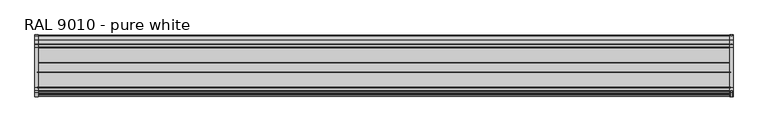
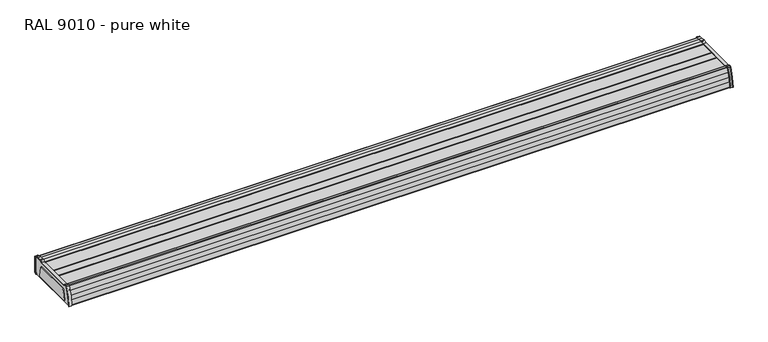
"""IFC4 building model written with IfcOpenShell, lengths in millimetres: proxy geometry, Electrical_Installations_Hager_GBD-Curved-Lid-End-Cap : RAL 9010 - pure white."""

from ifc_helpers import new_model, si_unit, point, frame, frame_2d, origin, place, context, project, spatial, polyline, circle_curve, trimmed, segment, composite_curve, outline, extrude, source, transform, mapped, element, save
from ifc_brep_helpers import plane_surface, cylinder_surface, revolved_surface, advanced_brep


def ral_9010_pure_white_70e795a8(model_context):
    return source(origin(), model_context, "Body", "SolidModel", [
        extrude(outline(composite_curve([segment(polyline([(-56.2971023, 12.5), (56.2971023, 12.5)]), True, "CONTINUOUS"), segment(trimmed(circle_curve(frame_2d((56.2971023, 11.6099434)), 0.8900566), [point((56.2971023, 12.5))], [point((57.1568309, 11.840307))], False, "CARTESIAN"), True, "CONTINUOUS"), segment(polyline([(57.1568309, 11.840307), (61.5409562, -4.5214711), (64.3769076, -20.8259828)]), True, "CONTINUOUS"), segment(trimmed(circle_curve(frame_2d((63.389468, -20.9977347)), 1.0022653), [point((64.3769076, -20.8259828))], [point((63.389468, -22.0))], False, "CARTESIAN"), True, "CONTINUOUS"), segment(polyline([(63.389468, -22.0), (-63.389468, -22.0)]), True, "CONTINUOUS"), segment(trimmed(circle_curve(frame_2d((-63.389468, -20.9977347)), 1.0022653), [point((-63.389468, -22.0))], [point((-64.3769076, -20.8259828))], False, "CARTESIAN"), True, "CONTINUOUS"), segment(polyline([(-64.3769076, -20.8259828), (-61.5409562, -4.5214711), (-57.1568309, 11.840307)]), True, "CONTINUOUS"), segment(trimmed(circle_curve(frame_2d((-56.2971023, 11.6099434)), 0.8900566), [point((-57.1568309, 11.840307))], [point((-56.2971023, 12.5))], False, "CARTESIAN"), True, "CONTINUOUS")], self_intersect=False)), frame((-6.484375, 0.0, 0.0), z_axis=(1.0, 0.0, 0.0), x_axis=(0.0, 1.0, 0.0)), (0.0, 0.0, 1.0), 2.5),
        extrude(outline(composite_curve([segment(polyline([(-56.2971023, 12.5), (56.2971023, 12.5)]), True, "CONTINUOUS"), segment(trimmed(circle_curve(frame_2d((56.2971023, 11.6099434)), 0.8900566), [point((56.2971023, 12.5))], [point((57.1568309, 11.840307))], False, "CARTESIAN"), True, "CONTINUOUS"), segment(polyline([(57.1568309, 11.840307), (61.5409562, -4.5214711), (64.3769076, -20.8259828)]), True, "CONTINUOUS"), segment(trimmed(circle_curve(frame_2d((63.389468, -20.9977347)), 1.0022653), [point((64.3769076, -20.8259828))], [point((63.389468, -22.0))], False, "CARTESIAN"), True, "CONTINUOUS"), segment(polyline([(63.389468, -22.0), (-63.389468, -22.0)]), True, "CONTINUOUS"), segment(trimmed(circle_curve(frame_2d((-63.389468, -20.9977347)), 1.0022653), [point((-63.389468, -22.0))], [point((-64.3769076, -20.8259828))], False, "CARTESIAN"), True, "CONTINUOUS"), segment(polyline([(-64.3769076, -20.8259828), (-61.5409562, -4.5214711), (-57.1568309, 11.840307)]), True, "CONTINUOUS"), segment(trimmed(circle_curve(frame_2d((-56.2971023, 11.6099434)), 0.8900566), [point((-57.1568309, 11.840307))], [point((-56.2971023, 12.5))], False, "CARTESIAN"), True, "CONTINUOUS")], self_intersect=False)), frame((2003.984375, 0.0, 0.0), z_axis=(1.0, 0.0, 0.0), x_axis=(0.0, 1.0, 0.0)), (0.0, 0.0, 1.0), 2.5),
        advanced_brep(
        [(2.5, 89.0716104, 25.3713094), (2.5, 86.0170743, 28.9997666), (2.5, 74.2844253, 30.6486828), (2.5, 62.4516475, 31.6839168), (2.5, 60.8066211, 31.4964897), (2.5, 52.1999109, 28.7), (2.5, -62.8126879, 28.7), (2.5, -71.4543472, 31.5078453), (2.5, -76.0707812, 29.3458662), (2.5, -89.4534138, -27.0), (2.5, -87.950009, -27.0), (2.5, -74.7139057, 28.7218397), (2.5, -71.8616711, 30.0629995), (2.5, -63.0502646, 27.2), (2.5, 52.4374875, 27.2), (2.5, 61.1100703, 30.017893), (2.5, 62.6440579, 30.1926688), (2.5, 74.1080217, 29.1897019), (2.5, 85.7835434, 27.4641372), (2.5, 87.5716104, 25.3259929), (2.5, 87.5716104, -21.9074834), (2.5, 82.4790938, -27.0), (2.5, 84.0716104, -27.0), (2.5, 89.0716104, -22.0), (-6.484375, 89.0716104, 25.3713094), (-6.484375, 89.0716104, -22.0), (-6.484375, 84.0716104, -27.0), (-6.484375, 82.4790938, -27.0), (-6.484375, 87.5716104, -21.9074834), (-6.484375, 87.5716104, 25.3259929), (-6.484375, 85.7835434, 27.4641372), (-6.484375, 74.1080217, 29.1897019), (-6.484375, 62.6440579, 30.1926688), (-6.484375, 61.1100703, 30.017893), (-6.484375, 52.4374875, 27.2), (-6.484375, -63.0502646, 27.2), (-6.484375, -71.8616711, 30.0629995), (-6.484375, -74.7139057, 28.7218397), (-6.484375, -87.950009, -27.0), (-6.484375, -89.4534138, -27.0), (-6.484375, -76.0707812, 29.3458662), (-6.484375, -71.4543472, 31.5078453), (-6.484375, -62.8126879, 28.7), (-6.484375, 52.1999109, 28.7), (-6.484375, 60.8066211, 31.4964897), (-6.484375, 62.4516475, 31.6839168), (-6.484375, 74.2844253, 30.6486828), (-6.484375, 86.0170743, 28.9997666), (0.0, 89.0716104, 25.3713094), (-3.984375, 89.0716104, 25.3713094), (-3.984375, 86.0170743, 28.9997666), (0.0, 86.0170743, 28.9997666), (0.0, 89.0716104, -22.0), (-3.984375, 89.0716104, -22.0), (0.0, 82.4790938, -27.0), (0.0, -87.950009, -27.0), (-3.984375, -87.950009, -27.0), (-3.984375, 82.4790938, -27.0), (0.0, 87.5716104, -21.9074834), (-3.984375, 87.5716104, -21.9074834), (0.0, 87.5716104, 25.3259929), (-3.984375, 87.5716104, 25.3259929), (0.0, 85.7835434, 27.4641372), (-3.984375, 85.7835434, 27.4641372), (0.0, -63.0502646, 27.2), (0.0, 52.4374875, 27.2), (-3.984375, 52.4374875, 27.2), (-3.984375, -63.0502646, 27.2), (0.0, -71.8616711, 30.0629995), (-3.984375, -71.8616711, 30.0629995), (0.0, -74.7139057, 28.7218397), (-3.984375, -74.7139057, 28.7218397), (0.0, -76.0707812, 29.3458662), (-3.984375, -76.0707812, 29.3458662), (0.0, -71.4543472, 31.5078453), (-3.984375, -71.4543472, 31.5078453), (0.0, -62.8126879, 28.7), (-3.984375, -62.8126879, 28.7), (0.0, 52.1999109, 28.7), (-3.984375, 52.1999109, 28.7), (0.0, 74.1080217, 29.1897019), (-3.984375, 74.1080217, 29.1897019), (0.0, 62.6440579, 30.1926688), (-3.984375, 62.6440579, 30.1926688), (0.0, 61.1100703, 30.017893), (-3.984375, 61.1100703, 30.017893), (0.0, 60.8066211, 31.4964897), (-3.984375, 60.8066211, 31.4964897), (0.0, 62.4516475, 31.6839168), (-3.984375, 62.4516475, 31.6839168), (0.0, 74.2844253, 30.6486828), (-3.984375, 74.2844253, 30.6486828)],
        [
            (0, 1, circle_curve(frame((2.5, 85.3892358, 25.3713094), z_axis=(1.0, 0.0, 0.0), x_axis=(0.0, -1.0, 0.0)), 3.6823746)),
            (1, 2),
            (2, 3),
            (3, 4, circle_curve(frame((2.5, 62.0897511, 27.5474216), z_axis=(1.0, 0.0, 0.0), x_axis=(0.0, -1.0, 0.0)), 4.1522959)),
            (4, 5),
            (5, 6),
            (6, 7),
            (7, 8, circle_curve(frame((2.5, -72.607181, 27.9597874), z_axis=(1.0, 0.0, 0.0), x_axis=(0.0, -1.0, 0.0)), 3.7306488)),
            (8, 9, circle_curve(frame((2.5, 106.8832578, -43.8694858), z_axis=(1.0, 0.0, 0.0), x_axis=(0.0, -1.0, 0.0)), 197.0600623)),
            (9, 10),
            (10, 11, circle_curve(frame((2.5, 110.3369957, -44.6679083), z_axis=(-1.0, 0.0, 0.0), x_axis=(0.0, -1.0, 0.0)), 199.0725777)),
            (11, 12, circle_curve(frame((2.5, -72.5732824, 27.8728851), z_axis=(-1.0, 0.0, 0.0), x_axis=(0.0, -1.0, 0.0)), 2.3028226)),
            (12, 13),
            (13, 14),
            (14, 15),
            (15, 16, circle_curve(frame((2.5, 62.3065893, 26.3353861), z_axis=(-1.0, 0.0, 0.0), x_axis=(0.0, -1.0, 0.0)), 3.8720169)),
            (16, 17),
            (17, 18),
            (18, 19, circle_curve(frame((2.5, 85.3991961, 25.3259929), z_axis=(-1.0, 0.0, 0.0), x_axis=(0.0, -1.0, 0.0)), 2.1724143)),
            (19, 20),
            (20, 21),
            (21, 22),
            (22, 23),
            (23, 0),
            (24, 25),
            (25, 26),
            (26, 27),
            (27, 28),
            (28, 29),
            (29, 30, circle_curve(frame((-6.484375, 85.3991961, 25.3259929), z_axis=(1.0, 0.0, 0.0), x_axis=(0.0, -1.0, 0.0)), 2.1724143)),
            (30, 31),
            (31, 32),
            (32, 33, circle_curve(frame((-6.484375, 62.3065893, 26.3353861), z_axis=(1.0, 0.0, 0.0), x_axis=(0.0, -1.0, 0.0)), 3.8720169)),
            (33, 34),
            (34, 35),
            (35, 36),
            (36, 37, circle_curve(frame((-6.484375, -72.5732824, 27.8728851), z_axis=(1.0, 0.0, 0.0), x_axis=(0.0, -1.0, 0.0)), 2.3028226)),
            (37, 38, circle_curve(frame((-6.484375, 110.3369957, -44.6679083), z_axis=(1.0, 0.0, 0.0), x_axis=(0.0, -1.0, 0.0)), 199.0725777)),
            (38, 39),
            (39, 40, circle_curve(frame((-6.484375, 106.8832578, -43.8694858), z_axis=(-1.0, 0.0, 0.0), x_axis=(0.0, -1.0, 0.0)), 197.0600623)),
            (40, 41, circle_curve(frame((-6.484375, -72.607181, 27.9597874), z_axis=(-1.0, 0.0, 0.0), x_axis=(0.0, -1.0, 0.0)), 3.7306488)),
            (41, 42),
            (42, 43),
            (43, 44),
            (44, 45, circle_curve(frame((-6.484375, 62.0897511, 27.5474216), z_axis=(-1.0, 0.0, 0.0), x_axis=(0.0, -1.0, 0.0)), 4.1522959)),
            (45, 46),
            (46, 47),
            (47, 24, circle_curve(frame((-6.484375, 85.3892358, 25.3713094), z_axis=(-1.0, 0.0, 0.0), x_axis=(0.0, -1.0, 0.0)), 3.6823746)),
            (0, 48),
            (48, 49),
            (49, 24),
            (47, 50),
            (50, 51),
            (51, 1),
            (23, 52),
            (52, 53),
            (53, 25),
            (22, 26),
            (21, 54),
            (54, 55),
            (55, 10),
            (9, 39),
            (38, 56),
            (56, 57),
            (57, 27),
            (20, 58),
            (58, 54),
            (57, 59),
            (59, 28),
            (19, 60),
            (60, 58),
            (59, 61),
            (61, 29),
            (18, 62),
            (62, 60, circle_curve(frame((0.0, 85.3991961, 25.3259929), z_axis=(-1.0, 0.0, 0.0), x_axis=(0.0, -1.0, 0.0)), 2.1724143)),
            (61, 63, circle_curve(frame((-3.984375, 85.3991961, 25.3259929), z_axis=(1.0, 0.0, 0.0), x_axis=(0.0, -1.0, 0.0)), 2.1724143)),
            (63, 30),
            (13, 64),
            (64, 65),
            (65, 14),
            (34, 66),
            (66, 67),
            (67, 35),
            (12, 68),
            (68, 64),
            (67, 69),
            (69, 36),
            (11, 70),
            (70, 68, circle_curve(frame((0.0, -72.5732824, 27.8728851), z_axis=(-1.0, 0.0, 0.0), x_axis=(0.0, -1.0, 0.0)), 2.3028226)),
            (69, 71, circle_curve(frame((-3.984375, -72.5732824, 27.8728851), z_axis=(1.0, 0.0, 0.0), x_axis=(0.0, -1.0, 0.0)), 2.3028226)),
            (71, 37),
            (55, 70, circle_curve(frame((0.0, 110.3369957, -44.6679083), z_axis=(-1.0, 0.0, 0.0), x_axis=(0.0, -1.0, 0.0)), 199.0725777)),
            (71, 56, circle_curve(frame((-3.984375, 110.3369957, -44.6679083), z_axis=(1.0, 0.0, 0.0), x_axis=(0.0, -1.0, 0.0)), 199.0725777)),
            (8, 72),
            (72, 73),
            (73, 40),
            (7, 74),
            (74, 75),
            (75, 41),
            (6, 76),
            (76, 77),
            (77, 42),
            (5, 78),
            (78, 79),
            (79, 43),
            (17, 80),
            (80, 62),
            (63, 81),
            (81, 31),
            (16, 82),
            (82, 80),
            (81, 83),
            (83, 32),
            (15, 84),
            (84, 82, circle_curve(frame((0.0, 62.3065893, 26.3353861), z_axis=(-1.0, 0.0, 0.0), x_axis=(0.0, -1.0, 0.0)), 3.8720169)),
            (83, 85, circle_curve(frame((-3.984375, 62.3065893, 26.3353861), z_axis=(1.0, 0.0, 0.0), x_axis=(0.0, -1.0, 0.0)), 3.8720169)),
            (85, 33),
            (65, 84),
            (85, 66),
            (4, 86),
            (86, 87),
            (87, 44),
            (3, 88),
            (88, 89),
            (89, 45),
            (2, 90),
            (90, 91),
            (91, 46),
        ],
        [
            plane_surface(frame((2.5, 0.0, 0.0), z_axis=(1.0, 0.0, 0.0), x_axis=(0.0, 0.0, 1.0))),
            plane_surface(frame((-6.484375, 0.0, 0.0), z_axis=(-1.0, 0.0, 0.0), x_axis=(0.0, 0.0, 1.0))),
            cylinder_surface(frame((2.5, 85.3892358, 25.3713094), z_axis=(1.0, 0.0, 0.0), x_axis=(0.0, -1.0, 0.0)), 3.6823746),
            plane_surface(frame((2.5, 89.0716104, -22.0), z_axis=(0.0, 1.0, 0.0), x_axis=(-1.0, 0.0, 0.0))),
            plane_surface(frame((2.5, 84.0716104, -27.0), z_axis=(0.0, 0.7071067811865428, -0.7071067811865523), x_axis=(-1.0, 0.0, 0.0))),
            plane_surface(frame((2.5, 82.4790938, -27.0), z_axis=(0.0, 0.0, -1.0), x_axis=(-1.0, 0.0, 0.0))),
            plane_surface(frame((2.5, 87.5716104, -21.9074834), z_axis=(0.0, -0.7071067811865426, 0.7071067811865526), x_axis=(-1.0, 0.0, 0.0))),
            plane_surface(frame((2.5, 87.5716104, 25.3259929), z_axis=(0.0, -1.0, 0.0), x_axis=(-1.0, 0.0, 0.0))),
            revolved_surface(polyline([(0.0, 83.2267818, 25.3259929), (2.5, 83.2267818, 25.3259929)]), (2.5, 85.3991961, 25.3259929), (-1.0, 0.0, 0.0)),
            revolved_surface(polyline([(-6.484375, 83.2267818, 25.3259929), (-3.984375, 83.2267818, 25.3259929)]), (2.5, 85.3991961, 25.3259929), (-1.0, 0.0, 0.0)),
            plane_surface(frame((2.5, -63.0502646, 27.2), z_axis=(0.0, 0.0, -1.0), x_axis=(-1.0, 0.0, 0.0))),
            plane_surface(frame((2.5, -71.8616711, 30.0629995), z_axis=(0.0, -0.3090169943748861, -0.9510565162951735), x_axis=(-1.0, 0.0, 0.0))),
            revolved_surface(polyline([(0.0, -74.876105, 27.8728851), (2.5, -74.876105, 27.8728851)]), (2.5, -72.5732824, 27.8728851), (-1.0, 0.0, 0.0)),
            revolved_surface(polyline([(-6.484375, -74.876105, 27.8728851), (-3.984375, -74.876105, 27.8728851)]), (2.5, -72.5732824, 27.8728851), (-1.0, 0.0, 0.0)),
            revolved_surface(polyline([(0.0, -88.73558200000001, -44.6679083), (2.5, -88.73558200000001, -44.6679083)]), (2.5, 110.3369957, -44.6679083), (-1.0, 0.0, 0.0)),
            revolved_surface(polyline([(-6.484375, -88.73558200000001, -44.6679083), (-3.984375, -88.73558200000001, -44.6679083)]), (2.5, 110.3369957, -44.6679083), (-1.0, 0.0, 0.0)),
            cylinder_surface(frame((2.5, 106.8832578, -43.8694858), z_axis=(1.0, 0.0, 0.0), x_axis=(0.0, -1.0, 0.0)), 197.0600623),
            cylinder_surface(frame((2.5, -72.607181, 27.9597874), z_axis=(1.0, 0.0, 0.0), x_axis=(0.0, -1.0, 0.0)), 3.7306488),
            plane_surface(frame((2.5, -62.8126879, 28.7), z_axis=(0.0, 0.309016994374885, 0.951056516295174), x_axis=(-1.0, 0.0, 0.0))),
            plane_surface(frame((2.5, 52.1999109, 28.7), z_axis=(0.0, 0.0, 1.0), x_axis=(-1.0, 0.0, 0.0))),
            plane_surface(frame((2.5, 74.1080217, 29.1897019), z_axis=(0.0, -0.14620522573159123, -0.9892542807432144), x_axis=(-1.0, 0.0, 0.0))),
            plane_surface(frame((2.5, 62.6440579, 30.1926688), z_axis=(0.0, -0.08715574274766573, -0.9961946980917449), x_axis=(-1.0, 0.0, 0.0))),
            revolved_surface(polyline([(0.0, 58.4345724, 26.3353861), (2.5, 58.4345724, 26.3353861)]), (2.5, 62.3065893, 26.3353861), (-1.0, 0.0, 0.0)),
            revolved_surface(polyline([(-6.484375, 58.4345724, 26.3353861), (-3.984375, 58.4345724, 26.3353861)]), (2.5, 62.3065893, 26.3353861), (-1.0, 0.0, 0.0)),
            plane_surface(frame((2.5, 52.4374875, 27.2), z_axis=(0.0, 0.30901699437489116, -0.9510565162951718), x_axis=(-1.0, 0.0, 0.0))),
            plane_surface(frame((2.5, 60.8066211, 31.4964897), z_axis=(0.0, -0.3090169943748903, 0.9510565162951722), x_axis=(-1.0, 0.0, 0.0))),
            cylinder_surface(frame((2.5, 62.0897511, 27.5474216), z_axis=(1.0, 0.0, 0.0), x_axis=(0.0, -1.0, 0.0)), 4.1522959),
            plane_surface(frame((2.5, 74.2844253, 30.6486828), z_axis=(0.0, 0.08715574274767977, 0.9961946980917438), x_axis=(-1.0, 0.0, 0.0))),
            plane_surface(frame((2.5, 86.0170743, 28.9997666), z_axis=(0.0, 0.13917310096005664, 0.9902680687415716), x_axis=(-1.0, 0.0, 0.0))),
            plane_surface(frame((0.0, 0.0, 0.0), z_axis=(1.0, 0.0, 0.0), x_axis=(0.0, 0.0, 1.0))),
            plane_surface(frame((-3.984375, 0.0, 0.0), z_axis=(-1.0, 0.0, 0.0), x_axis=(0.0, 0.0, 1.0))),
        ],
        [
            (0, [[1, 2, 3, 4, 5, 6, 7, 8, 9, 10, 11, 12, 13, 14, 15, 16, 17, 18, 19, 20, 21, 22, 23, 24]]),
            (1, [[25, 26, 27, 28, 29, 30, 31, 32, 33, 34, 35, 36, 37, 38, 39, 40, 41, 42, 43, 44, 45, 46, 47, 48]]),
            (2, [[-1, 49, 50, 51, -48, 52, 53, 54]]),
            (3, [[-24, 55, 56, 57, -25, -51, -50, -49]]),
            (4, [[-23, 58, -26, -57, -56, -55]]),
            (5, [[-22, 59, 60, 61, -10, 62, -39, 63, 64, 65, -27, -58]]),
            (6, [[-21, 66, 67, -59]]),
            (6, [[-28, -65, 68, 69]]),
            (7, [[-20, 70, 71, -66]]),
            (7, [[-29, -69, 72, 73]]),
            (8, [[-19, 74, 75, -70]]),
            (9, [[-30, -73, 76, 77]]),
            (10, [[-14, 78, 79, 80]]),
            (10, [[-35, 81, 82, 83]]),
            (11, [[-13, 84, 85, -78]]),
            (11, [[-36, -83, 86, 87]]),
            (12, [[-12, 88, 89, -84]]),
            (13, [[-37, -87, 90, 91]]),
            (14, [[-11, -61, 92, -88]]),
            (15, [[-38, -91, 93, -63]]),
            (16, [[-62, -9, 94, 95, 96, -40]]),
            (17, [[-8, 97, 98, 99, -41, -96, -95, -94]]),
            (18, [[-7, 100, 101, 102, -42, -99, -98, -97]]),
            (19, [[-6, 103, 104, 105, -43, -102, -101, -100]]),
            (20, [[-18, 106, 107, -74]]),
            (20, [[-31, -77, 108, 109]]),
            (21, [[-17, 110, 111, -106]]),
            (21, [[-32, -109, 112, 113]]),
            (22, [[-16, 114, 115, -110]]),
            (23, [[-33, -113, 116, 117]]),
            (24, [[-15, -80, 118, -114]]),
            (24, [[-34, -117, 119, -81]]),
            (25, [[-5, 120, 121, 122, -44, -105, -104, -103]]),
            (26, [[-4, 123, 124, 125, -45, -122, -121, -120]]),
            (27, [[-3, 126, 127, 128, -46, -125, -124, -123]]),
            (28, [[-2, -54, -53, -52, -47, -128, -127, -126]]),
            (29, [[-60, -67, -71, -75, -107, -111, -115, -118, -79, -85, -89, -92]]),
            (30, [[-64, -93, -90, -86, -82, -119, -116, -112, -108, -76, -72, -68]]),
        ],
    ),
        advanced_brep(
        [(2000.0, 82.4790938, -27.0), (2000.0, -87.950009, -27.0), (2000.0, -74.7139057, 28.7218397), (2000.0, -71.8616711, 30.0629995), (2000.0, -63.0502646, 27.2), (2000.0, 52.4374875, 27.2), (2000.0, 61.1100703, 30.017893), (2000.0, 62.6440579, 30.1926688), (2000.0, 74.1080217, 29.1897019), (2000.0, 85.7835434, 27.4641372), (2000.0, 87.5716104, 25.3259929), (2000.0, 87.5716104, -21.9074834), (2003.984375, -87.950009, -27.0), (2003.984375, 82.4790938, -27.0), (2003.984375, 87.5716104, -21.9074834), (2003.984375, 87.5716104, 25.3259929), (2003.984375, 85.7835434, 27.4641372), (2003.984375, 74.1080217, 29.1897019), (2003.984375, 62.6440579, 30.1926688), (2003.984375, 61.1100703, 30.017893), (2003.984375, 52.4374875, 27.2), (2003.984375, -63.0502646, 27.2), (2003.984375, -71.8616711, 30.0629995), (2003.984375, -74.7139057, 28.7218397), (2000.0, 86.0170743, 28.9997666), (2003.984375, 86.0170743, 28.9997666), (2003.984375, 89.0716104, 25.3713094), (2000.0, 89.0716104, 25.3713094), (2006.484375, 89.0716104, 25.3713094), (2006.484375, 89.0716104, -22.0), (1997.484375, 89.0716104, -22.0), (1997.484375, 89.0716104, 25.3713094), (2006.484375, 84.0716104, -27.0), (1997.484375, 84.0716104, -27.0), (2006.484375, 82.4790938, -27.0), (2006.484375, -87.950009, -27.0), (2006.484375, -89.4534138, -27.0), (2003.984375, -89.4534138, -27.0), (2000.0, -89.4534138, -27.0), (1997.484375, -89.4534138, -27.0), (1997.484375, -87.950009, -27.0), (1997.484375, 82.4790938, -27.0), (2003.984375, -76.0707812, 29.3458662), (2000.0, -76.0707812, 29.3458662), (2003.984375, -71.4543472, 31.5078453), (2000.0, -71.4543472, 31.5078453), (2006.484375, -71.4543472, 31.5078453), (2006.484375, -62.8126879, 28.7), (1997.484375, -62.8126879, 28.7), (1997.484375, -71.4543472, 31.5078453), (2006.484375, 52.1999109, 28.7), (1997.484375, 52.1999109, 28.7), (2006.484375, 60.8066211, 31.4964897), (2003.984375, 60.8066211, 31.4964897), (2000.0, 60.8066211, 31.4964897), (1997.484375, 60.8066211, 31.4964897), (2003.984375, 62.4516475, 31.6839168), (2000.0, 62.4516475, 31.6839168), (2006.484375, 62.4516475, 31.6839168), (2006.484375, 74.2844253, 30.6486828), (1997.484375, 74.2844253, 30.6486828), (1997.484375, 62.4516475, 31.6839168), (1997.484375, 86.0170743, 28.9997666), (2006.484375, 86.0170743, 28.9997666), (1997.484375, 87.5716104, -21.9074834), (1997.484375, 87.5716104, 25.3259929), (1997.484375, 85.7835434, 27.4641372), (1997.484375, 74.1080217, 29.1897019), (1997.484375, 62.6440579, 30.1926688), (1997.484375, 61.1100703, 30.017893), (1997.484375, 52.4374875, 27.2), (1997.484375, -63.0502646, 27.2), (1997.484375, -71.8616711, 30.0629995), (1997.484375, -74.7139057, 28.7218397), (1997.484375, -76.0707812, 29.3458662), (2006.484375, -76.0707812, 29.3458662), (2006.484375, -74.7139057, 28.7218397), (2006.484375, -71.8616711, 30.0629995), (2006.484375, -63.0502646, 27.2), (2006.484375, 52.4374875, 27.2), (2006.484375, 61.1100703, 30.017893), (2006.484375, 62.6440579, 30.1926688), (2006.484375, 74.1080217, 29.1897019), (2006.484375, 85.7835434, 27.4641372), (2006.484375, 87.5716104, 25.3259929), (2006.484375, 87.5716104, -21.9074834)],
        [
            (0, 1),
            (1, 2, circle_curve(frame((2000.0, 110.3369957, -44.6679083), z_axis=(-1.0, 0.0, 0.0), x_axis=(0.0, 1.0, 0.0)), 199.0725777)),
            (2, 3, circle_curve(frame((2000.0, -72.5732824, 27.8728851), z_axis=(-1.0, 0.0, 0.0), x_axis=(0.0, 1.0, 0.0)), 2.3028226)),
            (3, 4),
            (4, 5),
            (5, 6),
            (6, 7, circle_curve(frame((2000.0, 62.3065893, 26.3353861), z_axis=(-1.0, 0.0, 0.0), x_axis=(0.0, 1.0, 0.0)), 3.8720169)),
            (7, 8),
            (8, 9),
            (9, 10, circle_curve(frame((2000.0, 85.3991961, 25.3259929), z_axis=(-1.0, 0.0, 0.0), x_axis=(0.0, 1.0, 0.0)), 2.1724143)),
            (10, 11),
            (11, 0),
            (12, 13),
            (13, 14),
            (14, 15),
            (15, 16, circle_curve(frame((2003.984375, 85.3991961, 25.3259929), z_axis=(1.0, 0.0, 0.0), x_axis=(0.0, 1.0, 0.0)), 2.1724143)),
            (16, 17),
            (17, 18),
            (18, 19, circle_curve(frame((2003.984375, 62.3065893, 26.3353861), z_axis=(1.0, 0.0, 0.0), x_axis=(0.0, 1.0, 0.0)), 3.8720169)),
            (19, 20),
            (20, 21),
            (21, 22),
            (22, 23, circle_curve(frame((2003.984375, -72.5732824, 27.8728851), z_axis=(1.0, 0.0, 0.0), x_axis=(0.0, 1.0, 0.0)), 2.3028226)),
            (23, 12, circle_curve(frame((2003.984375, 110.3369957, -44.6679083), z_axis=(1.0, 0.0, 0.0), x_axis=(0.0, 1.0, 0.0)), 199.0725777)),
            (24, 25),
            (25, 26, circle_curve(frame((2003.984375, 85.3892358, 25.3713094), z_axis=(-1.0, 0.0, 0.0), x_axis=(0.0, 1.0, 0.0)), 3.6823746)),
            (26, 27),
            (27, 24, circle_curve(frame((2000.0, 85.3892358, 25.3713094), z_axis=(1.0, 0.0, 0.0), x_axis=(0.0, 1.0, 0.0)), 3.6823746)),
            (26, 28),
            (28, 29),
            (29, 30),
            (30, 31),
            (31, 27),
            (29, 32),
            (32, 33),
            (33, 30),
            (32, 34),
            (34, 13),
            (12, 35),
            (35, 36),
            (36, 37),
            (37, 38),
            (38, 39),
            (39, 40),
            (40, 1),
            (0, 41),
            (41, 33),
            (37, 42, circle_curve(frame((2003.984375, 106.8832578, -43.8694858), z_axis=(-1.0, 0.0, 0.0), x_axis=(0.0, 1.0, 0.0)), 197.0600623)),
            (42, 43),
            (43, 38, circle_curve(frame((2000.0, 106.8832578, -43.8694858), z_axis=(1.0, 0.0, 0.0), x_axis=(0.0, 1.0, 0.0)), 197.0600623)),
            (42, 44, circle_curve(frame((2003.984375, -72.607181, 27.9597874), z_axis=(-1.0, 0.0, 0.0), x_axis=(0.0, 1.0, 0.0)), 3.7306488)),
            (44, 45),
            (45, 43, circle_curve(frame((2000.0, -72.607181, 27.9597874), z_axis=(1.0, 0.0, 0.0), x_axis=(0.0, 1.0, 0.0)), 3.7306488)),
            (44, 46),
            (46, 47),
            (47, 48),
            (48, 49),
            (49, 45),
            (47, 50),
            (50, 51),
            (51, 48),
            (50, 52),
            (52, 53),
            (53, 54),
            (54, 55),
            (55, 51),
            (53, 56, circle_curve(frame((2003.984375, 62.0897511, 27.5474216), z_axis=(-1.0, 0.0, 0.0), x_axis=(0.0, 1.0, 0.0)), 4.1522959)),
            (56, 57),
            (57, 54, circle_curve(frame((2000.0, 62.0897511, 27.5474216), z_axis=(1.0, 0.0, 0.0), x_axis=(0.0, 1.0, 0.0)), 4.1522959)),
            (56, 58),
            (58, 59),
            (59, 60),
            (60, 61),
            (61, 57),
            (24, 62),
            (62, 60),
            (59, 63),
            (63, 25),
            (41, 64),
            (64, 65),
            (65, 66, circle_curve(frame((1997.484375, 85.3991961, 25.3259929), z_axis=(1.0, 0.0, 0.0), x_axis=(0.0, 1.0, 0.0)), 2.1724143)),
            (66, 67),
            (67, 68),
            (68, 69, circle_curve(frame((1997.484375, 62.3065893, 26.3353861), z_axis=(1.0, 0.0, 0.0), x_axis=(0.0, 1.0, 0.0)), 3.8720169)),
            (69, 70),
            (70, 71),
            (71, 72),
            (72, 73, circle_curve(frame((1997.484375, -72.5732824, 27.8728851), z_axis=(1.0, 0.0, 0.0), x_axis=(0.0, 1.0, 0.0)), 2.3028226)),
            (73, 40, circle_curve(frame((1997.484375, 110.3369957, -44.6679083), z_axis=(1.0, 0.0, 0.0), x_axis=(0.0, 1.0, 0.0)), 199.0725777)),
            (39, 74, circle_curve(frame((1997.484375, 106.8832578, -43.8694858), z_axis=(-1.0, 0.0, 0.0), x_axis=(0.0, 1.0, 0.0)), 197.0600623)),
            (74, 49, circle_curve(frame((1997.484375, -72.607181, 27.9597874), z_axis=(-1.0, 0.0, 0.0), x_axis=(0.0, 1.0, 0.0)), 3.7306488)),
            (55, 61, circle_curve(frame((1997.484375, 62.0897511, 27.5474216), z_axis=(-1.0, 0.0, 0.0), x_axis=(0.0, 1.0, 0.0)), 4.1522959)),
            (62, 31, circle_curve(frame((1997.484375, 85.3892358, 25.3713094), z_axis=(-1.0, 0.0, 0.0), x_axis=(0.0, 1.0, 0.0)), 3.6823746)),
            (28, 63, circle_curve(frame((2006.484375, 85.3892358, 25.3713094), z_axis=(1.0, 0.0, 0.0), x_axis=(0.0, 1.0, 0.0)), 3.6823746)),
            (58, 52, circle_curve(frame((2006.484375, 62.0897511, 27.5474216), z_axis=(1.0, 0.0, 0.0), x_axis=(0.0, 1.0, 0.0)), 4.1522959)),
            (46, 75, circle_curve(frame((2006.484375, -72.607181, 27.9597874), z_axis=(1.0, 0.0, 0.0), x_axis=(0.0, 1.0, 0.0)), 3.7306488)),
            (75, 36, circle_curve(frame((2006.484375, 106.8832578, -43.8694858), z_axis=(1.0, 0.0, 0.0), x_axis=(0.0, 1.0, 0.0)), 197.0600623)),
            (35, 76, circle_curve(frame((2006.484375, 110.3369957, -44.6679083), z_axis=(-1.0, 0.0, 0.0), x_axis=(0.0, 1.0, 0.0)), 199.0725777)),
            (76, 77, circle_curve(frame((2006.484375, -72.5732824, 27.8728851), z_axis=(-1.0, 0.0, 0.0), x_axis=(0.0, 1.0, 0.0)), 2.3028226)),
            (77, 78),
            (78, 79),
            (79, 80),
            (80, 81, circle_curve(frame((2006.484375, 62.3065893, 26.3353861), z_axis=(-1.0, 0.0, 0.0), x_axis=(0.0, 1.0, 0.0)), 3.8720169)),
            (81, 82),
            (82, 83),
            (83, 84, circle_curve(frame((2006.484375, 85.3991961, 25.3259929), z_axis=(-1.0, 0.0, 0.0), x_axis=(0.0, 1.0, 0.0)), 2.1724143)),
            (84, 85),
            (85, 34),
            (11, 64),
            (85, 14),
            (10, 65),
            (84, 15),
            (9, 66),
            (83, 16),
            (70, 5),
            (4, 71),
            (78, 21),
            (20, 79),
            (3, 72),
            (77, 22),
            (2, 73),
            (76, 23),
            (43, 74),
            (75, 42),
            (8, 67),
            (82, 17),
            (7, 68),
            (81, 18),
            (6, 69),
            (80, 19),
        ],
        [
            plane_surface(frame((2000.0, 0.0, 0.0), z_axis=(-1.0, 0.0, 0.0), x_axis=(0.0, 0.0, 1.0))),
            plane_surface(frame((2003.984375, 0.0, 0.0), z_axis=(1.0, 0.0, 0.0), x_axis=(0.0, 0.0, 1.0))),
            cylinder_surface(frame((2000.0, 85.3892358, 25.3713094), z_axis=(-1.0, 0.0, 0.0), x_axis=(0.0, 1.0, 0.0)), 3.6823746),
            plane_surface(frame((2000.0, 89.0716104, 25.3713094), z_axis=(0.0, 1.0, 0.0), x_axis=(1.0, 0.0, 0.0))),
            plane_surface(frame((2000.0, 89.0716104, -22.0), z_axis=(0.0, 0.7071067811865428, -0.7071067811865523), x_axis=(1.0, 0.0, 0.0))),
            plane_surface(frame((2000.0, 84.0716104, -27.0), z_axis=(0.0, 0.0, -1.0), x_axis=(1.0, 0.0, 0.0))),
            cylinder_surface(frame((2000.0, 106.8832578, -43.8694858), z_axis=(-1.0, 0.0, 0.0), x_axis=(0.0, 1.0, 0.0)), 197.0600623),
            cylinder_surface(frame((2000.0, -72.607181, 27.9597874), z_axis=(-1.0, 0.0, 0.0), x_axis=(0.0, 1.0, 0.0)), 3.7306488),
            plane_surface(frame((2000.0, -71.4543472, 31.5078453), z_axis=(0.0, 0.3090169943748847, 0.951056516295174), x_axis=(1.0, 0.0, 0.0))),
            plane_surface(frame((2000.0, -62.8126879, 28.7), z_axis=(0.0, 0.0, 1.0), x_axis=(1.0, 0.0, 0.0))),
            plane_surface(frame((2000.0, 52.1999109, 28.7), z_axis=(0.0, -0.30901699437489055, 0.9510565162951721), x_axis=(1.0, 0.0, 0.0))),
            cylinder_surface(frame((2000.0, 62.0897511, 27.5474216), z_axis=(-1.0, 0.0, 0.0), x_axis=(0.0, 1.0, 0.0)), 4.1522959),
            plane_surface(frame((2000.0, 62.4516475, 31.6839168), z_axis=(0.0, 0.0871557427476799, 0.9961946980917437), x_axis=(1.0, 0.0, 0.0))),
            plane_surface(frame((2000.0, 74.2844253, 30.6486828), z_axis=(0.0, 0.13917310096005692, 0.9902680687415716), x_axis=(1.0, 0.0, 0.0))),
            plane_surface(frame((1997.484375, 0.0, 0.0), z_axis=(-1.0, 0.0, 0.0), x_axis=(0.0, 0.0, 1.0))),
            plane_surface(frame((2006.484375, 0.0, 0.0), z_axis=(1.0, 0.0, 0.0), x_axis=(0.0, 0.0, 1.0))),
            cylinder_surface(frame((1997.484375, 85.3892358, 25.3713094), z_axis=(-1.0, 0.0, 0.0), x_axis=(0.0, 1.0, 0.0)), 3.6823746),
            plane_surface(frame((1997.484375, 82.4790938, -27.0), z_axis=(0.0, -0.7071067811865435, 0.7071067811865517), x_axis=(1.0, 0.0, 0.0))),
            plane_surface(frame((1997.484375, 87.5716104, -21.9074834), z_axis=(0.0, -1.0, 0.0), x_axis=(1.0, 0.0, 0.0))),
            revolved_surface(polyline([(2000.0, 87.5716104, 25.3259929), (1997.484375, 87.5716104, 25.3259929)]), (1997.484375, 85.3991961, 25.3259929), (1.0, 0.0, 0.0)),
            revolved_surface(polyline([(2006.484375, 87.5716104, 25.3259929), (2003.984375, 87.5716104, 25.3259929)]), (1997.484375, 85.3991961, 25.3259929), (1.0, 0.0, 0.0)),
            plane_surface(frame((1997.484375, 52.4374875, 27.2), z_axis=(0.0, 0.0, -1.0), x_axis=(1.0, 0.0, 0.0))),
            plane_surface(frame((1997.484375, -63.0502646, 27.2), z_axis=(0.0, -0.3090169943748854, -0.9510565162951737), x_axis=(1.0, 0.0, 0.0))),
            revolved_surface(polyline([(2000.0, -70.2704598, 27.8728851), (1997.484375, -70.2704598, 27.8728851)]), (1997.484375, -72.5732824, 27.8728851), (1.0, 0.0, 0.0)),
            revolved_surface(polyline([(2006.484375, -70.2704598, 27.8728851), (2003.984375, -70.2704598, 27.8728851)]), (1997.484375, -72.5732824, 27.8728851), (1.0, 0.0, 0.0)),
            revolved_surface(polyline([(2000.0, 309.4095734, -44.6679083), (1997.484375, 309.4095734, -44.6679083)]), (1997.484375, 110.3369957, -44.6679083), (1.0, 0.0, 0.0)),
            revolved_surface(polyline([(2006.484375, 309.4095734, -44.6679083), (2003.984375, 309.4095734, -44.6679083)]), (1997.484375, 110.3369957, -44.6679083), (1.0, 0.0, 0.0)),
            cylinder_surface(frame((1997.484375, 106.8832578, -43.8694858), z_axis=(-1.0, 0.0, 0.0), x_axis=(0.0, 1.0, 0.0)), 197.0600623),
            cylinder_surface(frame((1997.484375, -72.607181, 27.9597874), z_axis=(-1.0, 0.0, 0.0), x_axis=(0.0, 1.0, 0.0)), 3.7306488),
            plane_surface(frame((1997.484375, 85.7835434, 27.4641372), z_axis=(0.0, -0.14620522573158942, -0.9892542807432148), x_axis=(1.0, 0.0, 0.0))),
            plane_surface(frame((1997.484375, 74.1080217, 29.1897019), z_axis=(0.0, -0.08715574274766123, -0.9961946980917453), x_axis=(1.0, 0.0, 0.0))),
            revolved_surface(polyline([(2000.0, 66.1786062, 26.3353861), (1997.484375, 66.1786062, 26.3353861)]), (1997.484375, 62.3065893, 26.3353861), (1.0, 0.0, 0.0)),
            revolved_surface(polyline([(2006.484375, 66.1786062, 26.3353861), (2003.984375, 66.1786062, 26.3353861)]), (1997.484375, 62.3065893, 26.3353861), (1.0, 0.0, 0.0)),
            plane_surface(frame((1997.484375, 61.1100703, 30.017893), z_axis=(0.0, 0.30901699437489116, -0.9510565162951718), x_axis=(1.0, 0.0, 0.0))),
            cylinder_surface(frame((1997.484375, 62.0897511, 27.5474216), z_axis=(-1.0, 0.0, 0.0), x_axis=(0.0, 1.0, 0.0)), 4.1522959),
        ],
        [
            (0, [[1, 2, 3, 4, 5, 6, 7, 8, 9, 10, 11, 12]]),
            (1, [[13, 14, 15, 16, 17, 18, 19, 20, 21, 22, 23, 24]]),
            (2, [[25, 26, 27, 28]]),
            (3, [[-27, 29, 30, 31, 32, 33]]),
            (4, [[-31, 34, 35, 36]]),
            (5, [[-35, 37, 38, -13, 39, 40, 41, 42, 43, 44, 45, -1, 46, 47]]),
            (6, [[-42, 48, 49, 50]]),
            (7, [[-49, 51, 52, 53]]),
            (8, [[-52, 54, 55, 56, 57, 58]]),
            (9, [[-56, 59, 60, 61]]),
            (10, [[-60, 62, 63, 64, 65, 66]]),
            (11, [[-64, 67, 68, 69]]),
            (12, [[-68, 70, 71, 72, 73, 74]]),
            (13, [[-25, 75, 76, -72, 77, 78]]),
            (14, [[-32, -36, -47, 79, 80, 81, 82, 83, 84, 85, 86, 87, 88, 89, -44, 90, 91, -57, -61, -66, 92, -73, -76, 93]]),
            (15, [[94, -77, -71, 95, -62, -59, -55, 96, 97, -40, 98, 99, 100, 101, 102, 103, 104, 105, 106, 107, 108, -37, -34, -30]]),
            (16, [[-93, -75, -28, -33]]),
            (16, [[-94, -29, -26, -78]]),
            (17, [[-79, -46, -12, 109]]),
            (17, [[-108, 110, -14, -38]]),
            (18, [[-80, -109, -11, 111]]),
            (18, [[-107, 112, -15, -110]]),
            (19, [[-81, -111, -10, 113]]),
            (20, [[-106, 114, -16, -112]]),
            (21, [[-86, 115, -5, 116]]),
            (21, [[-101, 117, -21, 118]]),
            (22, [[-87, -116, -4, 119]]),
            (22, [[-100, 120, -22, -117]]),
            (23, [[-88, -119, -3, 121]]),
            (24, [[-99, 122, -23, -120]]),
            (25, [[-89, -121, -2, -45]]),
            (26, [[-98, -39, -24, -122]]),
            (27, [[-90, -43, -50, 123]]),
            (27, [[-97, 124, -48, -41]]),
            (28, [[-91, -123, -53, -58]]),
            (28, [[-96, -54, -51, -124]]),
            (29, [[-82, -113, -9, 125]]),
            (29, [[-105, 126, -17, -114]]),
            (30, [[-83, -125, -8, 127]]),
            (30, [[-104, 128, -18, -126]]),
            (31, [[-84, -127, -7, 129]]),
            (32, [[-103, 130, -19, -128]]),
            (33, [[-85, -129, -6, -115]]),
            (33, [[-102, -118, -20, -130]]),
            (34, [[-92, -65, -69, -74]]),
            (34, [[-95, -70, -67, -63]]),
        ],
    ),
        extrude(outline(composite_curve([segment(polyline([(-85.2368553, -25.0), (-6.25, -25.0), (-6.25, 25.0), (-15.95, 25.0), (-15.95, 14.96875), (-20.25, 14.96875), (-20.25, 18.7637258), (-19.25, 18.7637258), (-19.25, 16.3), (-17.75, 16.3), (-17.75, 27.0), (7.25, 27.0), (7.25, 16.3), (8.75, 16.3), (8.75, 18.7441115), (9.75, 18.7441115), (9.75, 14.5), (5.45, 14.5), (5.45, 25.0), (-4.25, 25.0), (-4.25, -25.0), (81.2473088, -25.0), (85.2, -21.0473088), (85.2, 25.0790901), (73.4084992, 26.7822965), (61.8792753, 27.7103781), (54.05, 25.1664923), (54.05, 14.5), (49.75, 14.5), (49.75, 18.7391101), (50.75, 18.7391101), (50.75, 16.3), (52.25, 16.3), (52.25, 26.2703589)]), True, "CONTINUOUS"), segment(trimmed(circle_curve(frame_2d((53.2542649, 26.2703589)), 1.0042649), [point((52.25, 26.2703589))], [point((52.94393, 27.2254715))], False, "CARTESIAN"), True, "CONTINUOUS"), segment(polyline([(52.94393, 27.2254715), (61.1647105, 29.896565)]), True, "CONTINUOUS"), segment(trimmed(circle_curve(frame_2d((61.8535718, 27.776468)), 2.229202), [point((61.1647105, 29.896565))], [point((62.0324399, 29.9984823))], False, "CARTESIAN"), True, "CONTINUOUS"), segment(polyline([(62.0324399, 29.9984823), (73.960524, 29.0382932), (85.7542621, 27.3347636)]), True, "CONTINUOUS"), segment(trimmed(circle_curve(frame_2d((85.4630616, 25.3187476)), 2.0369384), [point((85.7542621, 27.3347636))], [point((87.5, 25.3187476))], False, "CARTESIAN"), True, "CONTINUOUS"), segment(polyline([(87.5, 25.3187476), (87.5, -22.0), (82.5, -27.0), (-85.4371356, -27.0)]), True, "CONTINUOUS"), segment(trimmed(circle_curve(frame_2d((-85.4371356, -24.9109785)), 2.0890215), [point((-85.4371356, -27.0))], [point((-87.5045544, -24.6113283))], False, "CARTESIAN"), True, "CONTINUOUS"), segment(polyline([(-87.5045544, -24.6113283), (-85.4928777, -10.7318848), (-82.665273, 2.5001298), (-78.9366987, 15.5032139), (-74.2325269, 28.6175358)]), True, "CONTINUOUS"), segment(trimmed(circle_curve(frame_2d((-72.2816269, 27.9177383)), 2.0726137), [point((-74.2325269, 28.6175358))], [point((-71.641154, 29.8889111))], False, "CARTESIAN"), True, "CONTINUOUS"), segment(polyline([(-71.641154, 29.8889111), (-63.6327057, 27.2868085)]), True, "CONTINUOUS"), segment(trimmed(circle_curve(frame_2d((-63.9575866, 26.286928)), 1.0513366), [point((-63.6327057, 27.2868085))], [point((-62.90625, 26.286928))], False, "CARTESIAN"), True, "CONTINUOUS"), segment(polyline([(-62.90625, 26.286928), (-62.90625, 16.3), (-61.25, 16.3), (-61.25, 18.7177382), (-60.25, 18.7177382), (-60.25, 14.96875), (-64.55, 14.96875), (-64.55, 25.1664923), (-72.1420805, 27.6333088), (-76.7464574, 14.7971958), (-80.4325779, 1.9421659), (-83.2276507, -11.1376133), (-85.2368553, -25.0)]), True, "CONTINUOUS")], self_intersect=False)), frame((0.0, 0.0, 0.0), z_axis=(1.0, 0.0, 0.0), x_axis=(0.0, 1.0, 0.0)), (0.0, 0.0, 1.0), 2000.0),
        extrude(outline(composite_curve([segment(polyline([(-19.317297, 25.7013932), (-61.217297, 25.7013932), (-61.217297, 22.4013932), (-57.767297, 22.4013932), (-57.767297, 10.8013932), (-55.867297, 10.8013932), (-55.867297, 10.0013932), (-58.767297, 10.0013932), (-58.767297, 21.4013932), (-61.5204385, 21.4013932), (-61.5204385, 17.0930522), (-62.5219845, 17.0930522), (-62.5219845, 26.2097868)]), True, "CONTINUOUS"), segment(trimmed(circle_curve(frame_2d((-61.6120226, 26.2097868)), 0.9099619), [point((-62.5219845, 26.2097868))], [point((-61.6120226, 27.1197487))], False, "CARTESIAN"), True, "CONTINUOUS"), segment(polyline([(-61.6120226, 27.1197487), (-19.1379774, 27.1197487)]), True, "CONTINUOUS"), segment(trimmed(circle_curve(frame_2d((-19.1379774, 26.1115683)), 1.0081804), [point((-19.1379774, 27.1197487))], [point((-18.129797, 26.1115683))], False, "CARTESIAN"), True, "CONTINUOUS"), segment(polyline([(-18.129797, 26.1115683), (-18.129797, 17.0930522), (-19.0141556, 17.0930522), (-19.0141556, 21.4013932), (-21.767297, 21.4013932), (-21.767297, 10.0013932), (-24.667297, 10.0013932), (-24.667297, 10.8013932), (-22.767297, 10.8013932), (-22.767297, 22.4013932), (-19.317297, 22.4013932), (-19.317297, 25.7013932)]), True, "CONTINUOUS")], self_intersect=False)), frame((0.0, 0.0, 0.0), z_axis=(1.0, 0.0, 0.0), x_axis=(0.0, 1.0, 0.0)), (0.0, 0.0, 1.0), 2000.0),
        extrude(outline(composite_curve([segment(polyline([(50.7405963, 25.7013932), (8.8405963, 25.7013932), (8.8405963, 22.4013932), (12.2905963, 22.4013932), (12.2905963, 10.8013932), (14.1905963, 10.8013932), (14.1905963, 10.0013932), (11.2905963, 10.0013932), (11.2905963, 21.4013932), (8.5374548, 21.4013932), (8.5374548, 17.0930522), (7.5359088, 17.0930522), (7.5359088, 26.2097868)]), True, "CONTINUOUS"), segment(trimmed(circle_curve(frame_2d((8.4458707, 26.2097868)), 0.9099619), [point((7.5359088, 26.2097868))], [point((8.4458707, 27.1197487))], False, "CARTESIAN"), True, "CONTINUOUS"), segment(polyline([(8.4458707, 27.1197487), (50.9199159, 27.1197487)]), True, "CONTINUOUS"), segment(trimmed(circle_curve(frame_2d((50.9199159, 26.1115683)), 1.0081804), [point((50.9199159, 27.1197487))], [point((51.9280963, 26.1115683))], False, "CARTESIAN"), True, "CONTINUOUS"), segment(polyline([(51.9280963, 26.1115683), (51.9280963, 17.0930522), (51.0437378, 17.0930522), (51.0437378, 21.4013932), (48.2905963, 21.4013932), (48.2905963, 10.0013932), (45.3905963, 10.0013932), (45.3905963, 10.8013932), (47.2905963, 10.8013932), (47.2905963, 22.4013932), (50.7405963, 22.4013932), (50.7405963, 25.7013932)]), True, "CONTINUOUS")], self_intersect=False)), frame((0.0, 0.0, 0.0), z_axis=(1.0, 0.0, 0.0), x_axis=(0.0, 1.0, 0.0)), (0.0, 0.0, 1.0), 2000.0),
    ])


if __name__ == "__main__":
    model = new_model("IFC4")
    model_context = context("Model", 3, world=origin())
    ifc_project = project(units=[si_unit("LENGTHUNIT", "METRE", prefix="MILLI")], contexts=[model_context])
    site = spatial("IfcSite", under=ifc_project)
    building = spatial("IfcBuilding", under=site)
    placement = place(None, origin())
    ral_9010_pure_white_shape = ral_9010_pure_white_70e795a8(model_context)
    element("IfcBuildingElementProxy", 1, Name="Electrical_Installations_Hager_GBD-Curved-Lid-End-Cap : RAL 9010 - pure white", ObjectType="Electrical_Installations_Hager_GBD-Curved-Lid-End-Cap : RAL 9010 - pure white", at=placement, inside=building, context=model_context, shape_type="MappedRepresentation", body=[
        mapped(ral_9010_pure_white_shape, transform((0.0, 0.0, 0.0), x_axis=(1.0, 0.0, 0.0), y_axis=(0.0, 1.0, 0.0), z_axis=(0.0, 0.0, 1.0))),
    ])
    save(model, "model.ifc")
